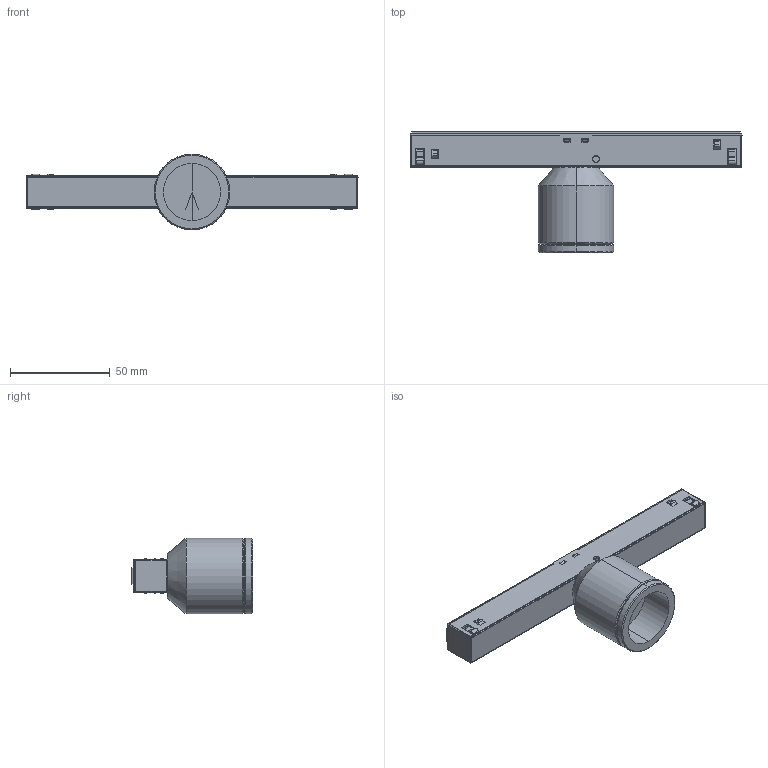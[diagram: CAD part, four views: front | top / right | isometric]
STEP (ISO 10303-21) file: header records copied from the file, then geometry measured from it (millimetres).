
FILE_DESCRIPTION (( 'STEP AP214' ), '1' );
FILE_NAME ('Spot Single Fixed CAD.STEP', '2019-01-11T03:54:59', ( '' ), ( '' ), 'SwSTEP 2.0', 'SolidWorks 2017', '' );
FILE_SCHEMA (( 'AUTOMOTIVE_DESIGN' ));
Length unit declared in the file: millimetre
Products named in the file (3): Part2^Spot Single Fixed CAD; Adaptor 9519-166; Spot Single Fixed CAD
Assembly tree (2 placements, depth 2):
  Spot Single Fixed CAD
    Adaptor 9519-166
    Part2^Spot Single Fixed CAD
Bounding box: 166.41 x 60.89 x 38 mm (x, y, z)
Volume: 52826.7 mm3; surface area: 37144 mm2
Topology: 5 solids, 5 shells, 1699 faces, 4708 edges, 2996 vertices
Faces by surface type: plane 1025, cylinder 378, cone 168, bspline 127, torus 1
Entity records: 60401 total; most frequent: CARTESIAN_POINT 18213, ORIENTED_EDGE 9346, DIRECTION 7254, EDGE_CURVE 4673, VECTOR 3040, LINE 3040, VERTEX_POINT 2996, AXIS2_PLACEMENT_3D 2107
